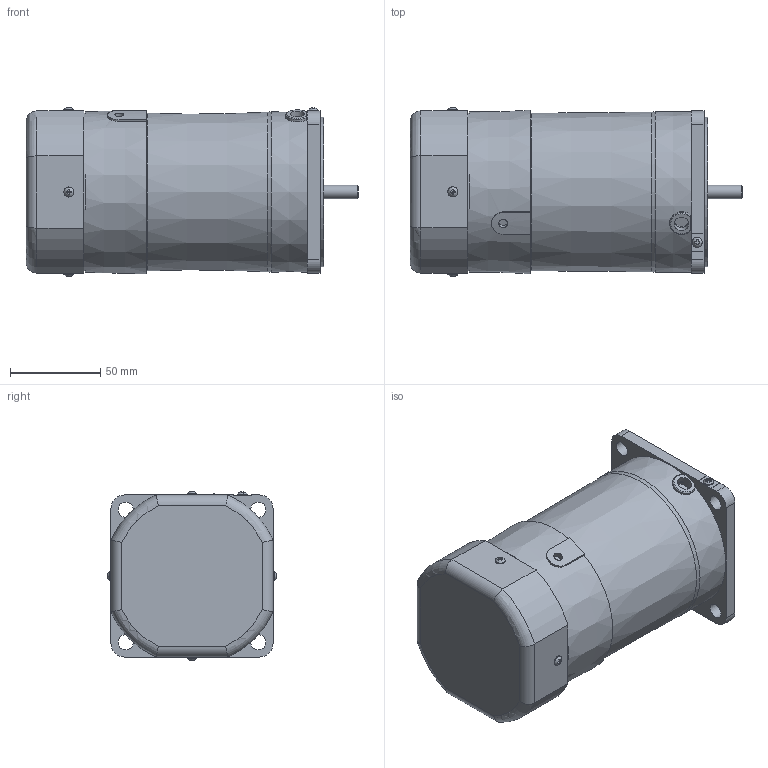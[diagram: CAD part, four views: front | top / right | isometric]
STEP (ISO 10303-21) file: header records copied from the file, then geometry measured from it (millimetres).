
FILE_DESCRIPTION(/* description */ (''),/* implementation_level */ '2;1');
FILE_NAME(/* name */ 'E:\도면작업\2016\0704) 미주향 SG 도면\3D MOTOR\ELECTROMAGNETIC BRAKE\SG9R(I)60G_-E.stp',/* time_stamp */ '2017-03-21T15:09:28+09:00',/* author */ ('jy-jung'),/* organization */ (''),/* preprocessor_version */ 'ST-DEVELOPER v15.6',/* originating_system */ 'Autodesk Inventor 2015',/* authorisation */ '');
FILE_SCHEMA (('AUTOMOTIVE_DESIGN { 1 0 10303 214 3 1 1 }'));
Length unit declared in the file: millimetre
Products named in the file (1): 부품23
Bounding box: 184.4 x 93.89 x 93.89 mm (x, y, z)
Volume: 1046922.6 mm3; surface area: 69673.7 mm2
Topology: 1 solids, 6 shells, 229 faces, 586 edges, 386 vertices
Faces by surface type: plane 146, cylinder 55, torus 14, cone 8, bspline 5, sphere 1
Full cylindrical faces by diameter (mm): 3 x4, 3.5 x4, 5 x1, 5.6 x5, 7.62 x1, 8 x1, 8.5 x4, 10 x1, 40 x1, 83 x1, 86 x1
Entity records: 7468 total; most frequent: CARTESIAN_POINT 1907, ORIENTED_EDGE 1066, DIRECTION 1034, EDGE_CURVE 533, VERTEX_POINT 375, AXIS2_PLACEMENT_3D 367, EDGE_LOOP 306, LINE 300
